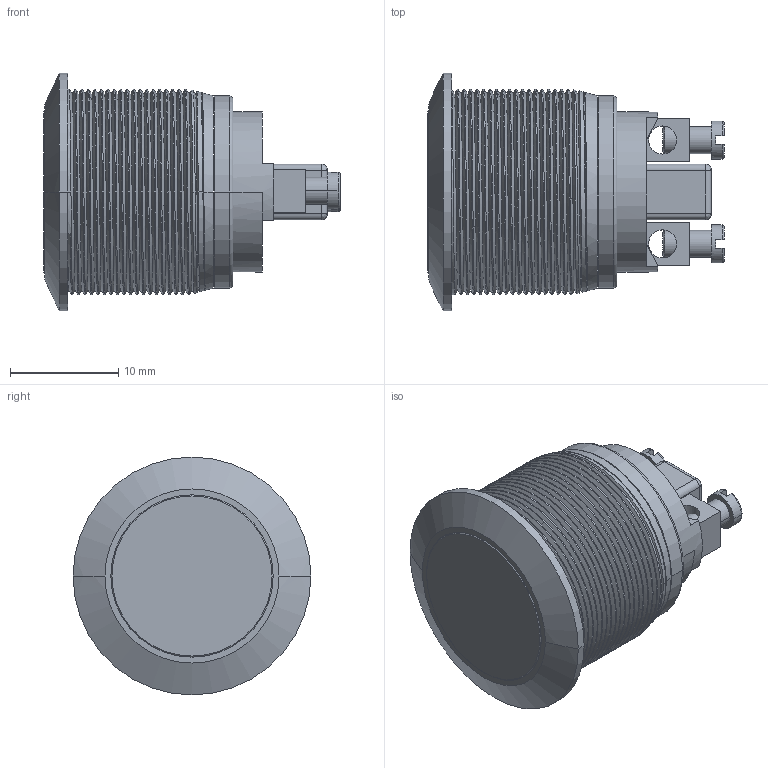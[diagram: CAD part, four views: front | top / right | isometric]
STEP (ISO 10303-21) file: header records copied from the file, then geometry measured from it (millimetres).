
FILE_DESCRIPTION((''),'2;1');
FILE_NAME('AV091003C900','2010-05-19T',('jlgachon'),(''),'PRO/ENGINEER BY PARAMETRIC TECHNOLOGY CORPORATION, 2009440','PRO/ENGINEER BY PARAMETRIC TECHNOLOGY CORPORATION, 2009440','');
FILE_SCHEMA(('CONFIG_CONTROL_DESIGN'));
Length unit declared in the file: millimetre
Products named in the file (1): AV091003C900
Bounding box: 27.4 x 22 x 22 mm (x, y, z)
Surface area: 3698 mm2 (no closed solid volume)
Topology: 0 solids, 9 shells, 161 faces, 480 edges, 329 vertices
Faces by surface type: cylinder 72, plane 53, bspline 16, cone 12, torus 6, sphere 2
Entity records: 14681 total; most frequent: CARTESIAN_POINT 10519, ORIENTED_EDGE 853, DIRECTION 790, EDGE_CURVE 480, VERTEX_POINT 329, AXIS2_PLACEMENT_3D 285, VECTOR 220, LINE 220
